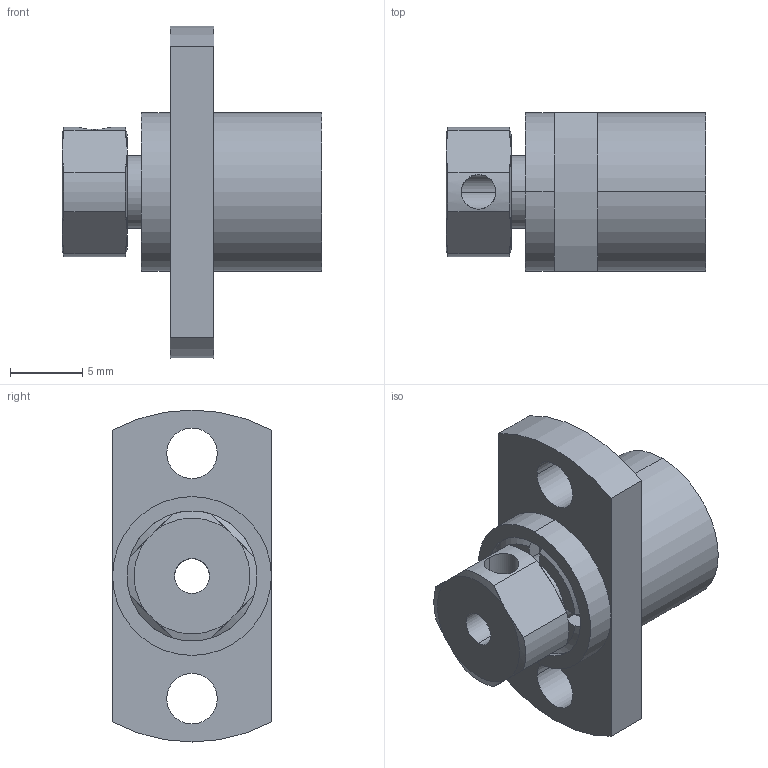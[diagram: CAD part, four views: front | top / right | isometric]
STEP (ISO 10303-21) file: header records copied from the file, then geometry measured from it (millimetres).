
FILE_DESCRIPTION((''),'1');
FILE_NAME('C:/Users/h-sekido/Desktop/今日のごみ/図面/作成中3D/クロクポ/stp/', '2021-04-30T04:49:03',(''), (''), 'KCM Version 1.1.1442.0', 'Kubotek KeyCreator', '');
FILE_SCHEMA(('AUTOMOTIVE_DESIGN'));
Length unit declared in the file: millimetre
Bounding box: 18 x 11 x 23 mm (x, y, z)
Surface area: 1569.8 mm2 (no closed solid volume)
Topology: 0 solids, 79 shells, 79 faces, 384 edges, 384 vertices
Faces by surface type: plane 35, cylinder 32, bspline 12
Entity records: 5281 total; most frequent: CARTESIAN_POINT 1342, DIRECTION 452, VERTEX_POINT 384, EDGE_CURVE 384, ORIENTED_EDGE 384, AXIS2_PLACEMENT_3D 226, B_SPLINE_CURVE_WITH_KNOTS 178, COLOUR_RGB 158
